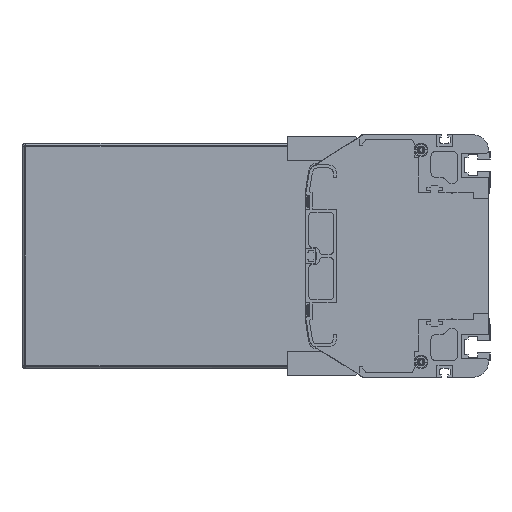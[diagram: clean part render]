
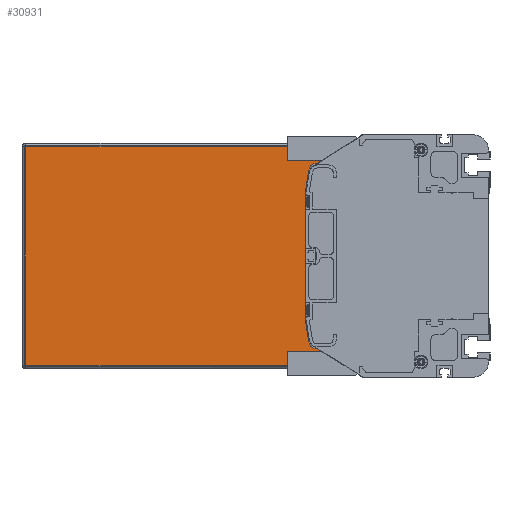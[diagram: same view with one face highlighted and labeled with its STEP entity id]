
A CAD part, left-side view. The second image highlights one B-rep face of the part: STEP entity #30931.
In plain terms, the highlighted planar face has unit normal (-1, 0, 0).
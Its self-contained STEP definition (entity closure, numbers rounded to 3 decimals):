
#718=DIRECTION('',(0.,-1.,0.));
#719=VECTOR('',#718,220.5);
#720=CARTESIAN_POINT('',(1086.5,306.5,-72.));
#721=LINE('',#720,#719);
#5297=DIRECTION('',(0.,-1.,0.));
#5298=VECTOR('',#5297,28.728);
#5299=CARTESIAN_POINT('',(1086.5,114.728,61.));
#5300=LINE('',#5299,#5298);
#5343=DIRECTION('',(0.,1.,0.));
#5344=VECTOR('',#5343,28.728);
#5345=CARTESIAN_POINT('',(1086.5,86.,-61.));
#5346=LINE('',#5345,#5344);
#5356=DIRECTION('',(0.,0.,-1.));
#5357=VECTOR('',#5356,11.);
#5358=CARTESIAN_POINT('',(1086.5,86.,-61.));
#5359=LINE('',#5358,#5357);
#5365=DIRECTION('',(0.,0.,-1.));
#5366=VECTOR('',#5365,11.);
#5367=CARTESIAN_POINT('',(1086.5,86.,72.));
#5368=LINE('',#5367,#5366);
#11371=CARTESIAN_POINT('',(1086.5,114.728,56.));
#11372=DIRECTION('',(-1.,0.,0.));
#11373=DIRECTION('',(0.,0.,1.));
#11374=AXIS2_PLACEMENT_3D('',#11371,#11372,#11373);
#11376=DIRECTION('',(0.,0.156,-0.988));
#11377=VECTOR('',#11376,14.963);
#11378=CARTESIAN_POINT('',(1086.5,119.666,56.78));
#11379=LINE('',#11378,#11377);
#11380=DIRECTION('',(0.,-0.156,-0.988));
#11381=VECTOR('',#11380,14.963);
#11382=CARTESIAN_POINT('',(1086.5,122.,-42.));
#11383=LINE('',#11382,#11381);
#11384=CARTESIAN_POINT('',(1086.5,114.728,-56.));
#11385=DIRECTION('',(-1.,0.,0.));
#11386=DIRECTION('',(0.,0.988,-0.156));
#11387=AXIS2_PLACEMENT_3D('',#11384,#11385,#11386);
#11393=DIRECTION('',(0.,0.,-1.));
#11394=VECTOR('',#11393,144.);
#11395=CARTESIAN_POINT('',(1086.5,306.5,72.));
#11396=LINE('',#11395,#11394);
#11483=DIRECTION('',(0.,1.,0.));
#11484=VECTOR('',#11483,220.5);
#11485=CARTESIAN_POINT('',(1086.5,86.,72.));
#11486=LINE('',#11485,#11484);
#11774=DIRECTION('',(0.,0.,1.));
#11775=VECTOR('',#11774,84.);
#11776=CARTESIAN_POINT('',(1086.5,122.,-42.));
#11777=LINE('',#11776,#11775);
#13745=CARTESIAN_POINT('',(1086.5,306.5,-72.));
#13746=CARTESIAN_POINT('',(1086.5,86.,-72.));
#13747=VERTEX_POINT('',#13745);
#13748=VERTEX_POINT('',#13746);
#13749=CARTESIAN_POINT('',(1086.5,86.,-61.));
#13750=VERTEX_POINT('',#13749);
#13751=CARTESIAN_POINT('',(1086.5,114.728,-61.));
#13752=VERTEX_POINT('',#13751);
#13753=CARTESIAN_POINT('',(1086.5,119.666,-56.78));
#13754=VERTEX_POINT('',#13753);
#13755=CARTESIAN_POINT('',(1086.5,122.,-42.));
#13756=VERTEX_POINT('',#13755);
#13757=CARTESIAN_POINT('',(1086.5,122.,42.));
#13758=VERTEX_POINT('',#13757);
#13759=CARTESIAN_POINT('',(1086.5,119.666,56.78));
#13760=VERTEX_POINT('',#13759);
#13761=CARTESIAN_POINT('',(1086.5,114.728,61.));
#13762=VERTEX_POINT('',#13761);
#13763=CARTESIAN_POINT('',(1086.5,86.,61.));
#13764=VERTEX_POINT('',#13763);
#13765=CARTESIAN_POINT('',(1086.5,86.,72.));
#13766=VERTEX_POINT('',#13765);
#13767=CARTESIAN_POINT('',(1086.5,306.5,72.));
#13768=VERTEX_POINT('',#13767);
#30905=CARTESIAN_POINT('',(1086.5,196.25,0.));
#30906=DIRECTION('',(1.,0.,0.));
#30907=DIRECTION('',(0.,0.,-1.));
#30908=AXIS2_PLACEMENT_3D('',#30905,#30906,#30907);
#30909=PLANE('',#30908);
#30910=ORIENTED_EDGE('',*,*,#17721,.F.);
#30912=ORIENTED_EDGE('',*,*,#30911,.F.);
#30914=ORIENTED_EDGE('',*,*,#30913,.F.);
#30915=ORIENTED_EDGE('',*,*,#22566,.T.);
#30916=ORIENTED_EDGE('',*,*,#22473,.F.);
#30918=ORIENTED_EDGE('',*,*,#30917,.T.);
#30920=ORIENTED_EDGE('',*,*,#30919,.T.);
#30922=ORIENTED_EDGE('',*,*,#30921,.F.);
#30924=ORIENTED_EDGE('',*,*,#30923,.T.);
#30926=ORIENTED_EDGE('',*,*,#30925,.T.);
#30927=ORIENTED_EDGE('',*,*,#22524,.F.);
#30928=ORIENTED_EDGE('',*,*,#22540,.T.);
#30929=EDGE_LOOP('',(#30910,#30912,#30914,#30915,#30916,#30918,#30920,#30922,
#30924,#30926,#30927,#30928));
#30930=FACE_OUTER_BOUND('',#30929,.F.);
#30931=ADVANCED_FACE('',(#30930),#30909,.F.);
#11375=CIRCLE('',#11374,5.);
#11388=CIRCLE('',#11387,5.);
#17721=EDGE_CURVE('',#13747,#13748,#721,.T.);
#22473=EDGE_CURVE('',#13762,#13764,#5300,.T.);
#22524=EDGE_CURVE('',#13750,#13752,#5346,.T.);
#22540=EDGE_CURVE('',#13750,#13748,#5359,.T.);
#22566=EDGE_CURVE('',#13766,#13764,#5368,.T.);
#30911=EDGE_CURVE('',#13768,#13747,#11396,.T.);
#30913=EDGE_CURVE('',#13766,#13768,#11486,.T.);
#30917=EDGE_CURVE('',#13762,#13760,#11375,.T.);
#30919=EDGE_CURVE('',#13760,#13758,#11379,.T.);
#30921=EDGE_CURVE('',#13756,#13758,#11777,.T.);
#30923=EDGE_CURVE('',#13756,#13754,#11383,.T.);
#30925=EDGE_CURVE('',#13754,#13752,#11388,.T.);
